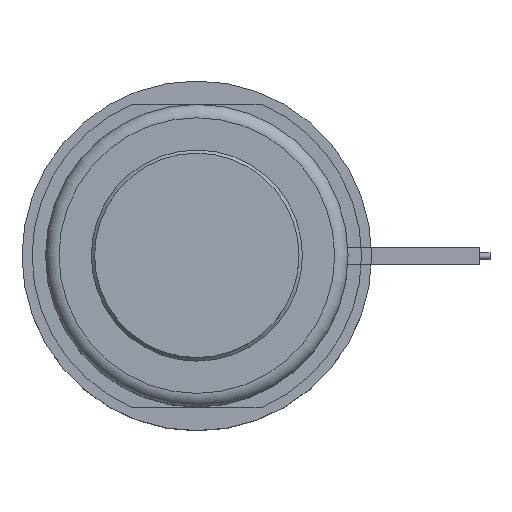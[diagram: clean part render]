
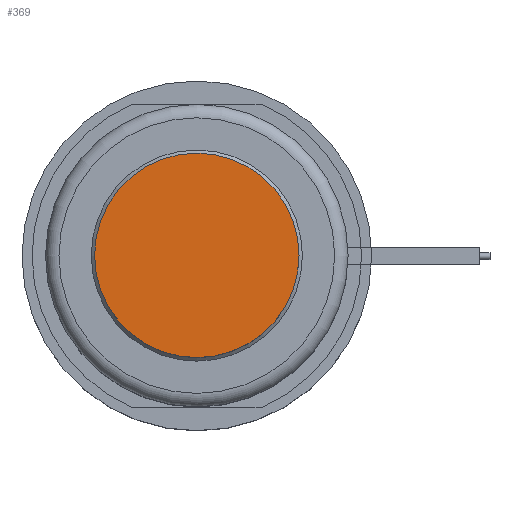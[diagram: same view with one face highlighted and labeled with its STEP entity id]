
A CAD part, top view. The second image highlights one B-rep face of the part: STEP entity #369.
In plain terms, the highlighted planar face has unit normal (0, 0, 1).
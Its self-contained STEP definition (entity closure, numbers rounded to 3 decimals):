
#251=PLANE('',#1323);
#295=FACE_OUTER_BOUND('',#575,.T.);
#369=ADVANCED_FACE('',(#295),#251,.F.);
#575=EDGE_LOOP('',(#715));
#715=ORIENTED_EDGE('',*,*,#1092,.F.);
#982=VERTEX_POINT('',#1889);
#1092=EDGE_CURVE('',#982,#982,#1231,.T.);
#1231=CIRCLE('',#1322,15.2);
#1322=AXIS2_PLACEMENT_3D('',#1888,#1520,#1521);
#1323=AXIS2_PLACEMENT_3D('',#1890,#1522,#1523);
#1520=DIRECTION('',(0.,0.,-1.));
#1521=DIRECTION('',(-1.,0.,0.));
#1522=DIRECTION('',(0.,0.,-1.));
#1523=DIRECTION('',(-1.,0.,0.));
#1888=CARTESIAN_POINT('',(0.,0.,18.));
#1889=CARTESIAN_POINT('',(-15.2,0.,18.));
#1890=CARTESIAN_POINT('',(0.,0.,18.));
